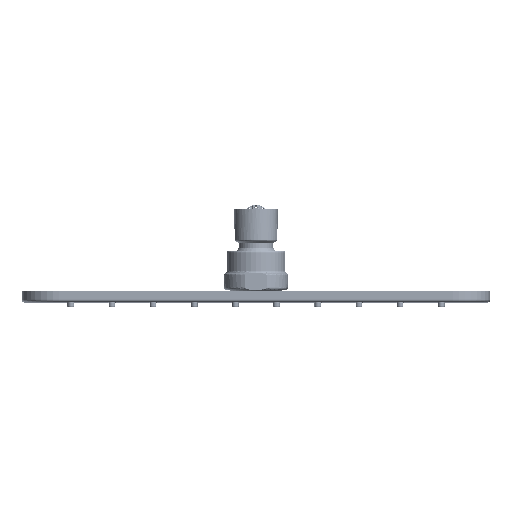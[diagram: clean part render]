
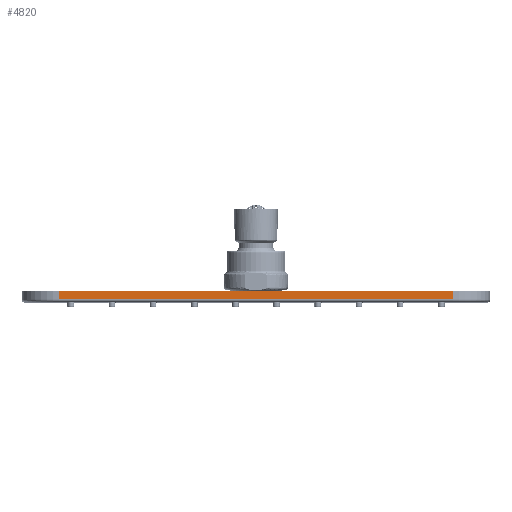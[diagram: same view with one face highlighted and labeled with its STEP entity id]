
A CAD part, top view. The second image highlights one B-rep face of the part: STEP entity #4820.
In plain terms, the highlighted planar face has unit normal (0, 0, 1).
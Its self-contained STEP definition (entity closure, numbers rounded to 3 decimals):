
#1090=DIRECTION('',(-1.,0.,0.));
#1091=VECTOR('',#1090,210.);
#1092=CARTESIAN_POINT('',(105.,1.3,125.));
#1093=LINE('',#1092,#1091);
#1094=DIRECTION('',(0.,-1.,0.));
#1095=VECTOR('',#1094,4.7);
#1096=CARTESIAN_POINT('',(-105.,6.,125.));
#1097=LINE('',#1096,#1095);
#1098=DIRECTION('',(0.,-1.,0.));
#1099=VECTOR('',#1098,4.7);
#1100=CARTESIAN_POINT('',(105.,6.,125.));
#1101=LINE('',#1100,#1099);
#1181=DIRECTION('',(1.,0.,0.));
#1182=VECTOR('',#1181,210.);
#1183=CARTESIAN_POINT('',(-105.,6.,125.));
#1184=LINE('',#1183,#1182);
#3183=CARTESIAN_POINT('',(-105.,6.,125.));
#3185=VERTEX_POINT('',#3183);
#3186=CARTESIAN_POINT('',(105.,6.,125.));
#3188=VERTEX_POINT('',#3186);
#3194=CARTESIAN_POINT('',(-105.,1.3,125.));
#3196=VERTEX_POINT('',#3194);
#3220=CARTESIAN_POINT('',(105.,1.3,125.));
#3221=VERTEX_POINT('',#3220);
#4806=CARTESIAN_POINT('',(-125.,0.,125.));
#4807=DIRECTION('',(0.,0.,1.));
#4808=DIRECTION('',(1.,0.,0.));
#4809=AXIS2_PLACEMENT_3D('',#4806,#4807,#4808);
#4810=PLANE('',#4809);
#4811=ORIENTED_EDGE('',*,*,#4800,.T.);
#4813=ORIENTED_EDGE('',*,*,#4812,.F.);
#4815=ORIENTED_EDGE('',*,*,#4814,.T.);
#4817=ORIENTED_EDGE('',*,*,#4816,.T.);
#4818=EDGE_LOOP('',(#4811,#4813,#4815,#4817));
#4819=FACE_OUTER_BOUND('',#4818,.F.);
#4820=ADVANCED_FACE('',(#4819),#4810,.T.);
#4800=EDGE_CURVE('',#3221,#3196,#1093,.T.);
#4812=EDGE_CURVE('',#3185,#3196,#1097,.T.);
#4814=EDGE_CURVE('',#3185,#3188,#1184,.T.);
#4816=EDGE_CURVE('',#3188,#3221,#1101,.T.);
